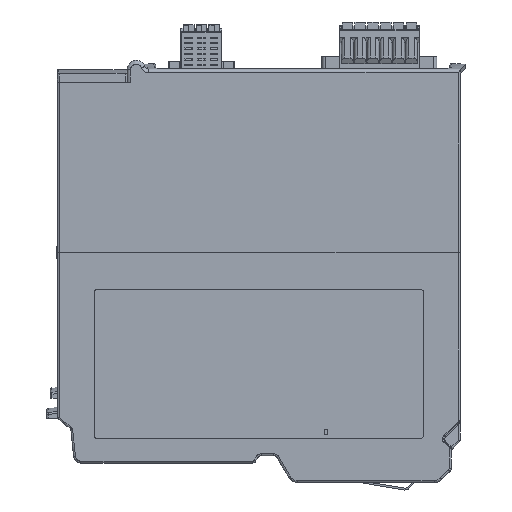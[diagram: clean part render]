
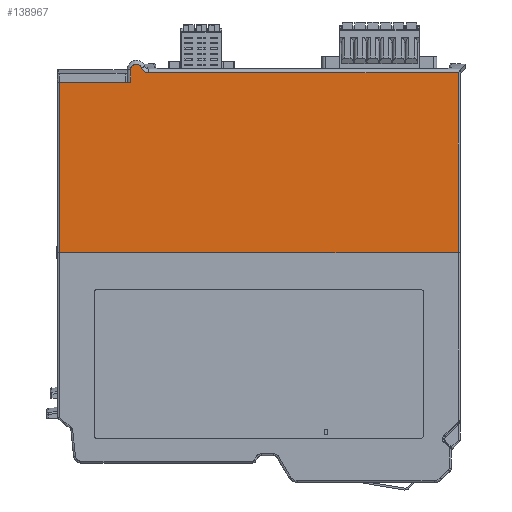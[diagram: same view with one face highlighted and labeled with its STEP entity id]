
A CAD part, left-side view. The second image highlights one B-rep face of the part: STEP entity #138967.
In plain terms, the highlighted planar face has unit normal (-1, 0, 0).
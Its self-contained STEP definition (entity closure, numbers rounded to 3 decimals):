
#2018 = CARTESIAN_POINT ( 'NONE',  ( 0., 109.5, 50. ) ) ;
#2510 = CARTESIAN_POINT ( 'NONE',  ( 0., 0., 50. ) ) ;
#3160 = EDGE_CURVE ( 'NONE', #88766, #42620, #225459, .T. ) ;
#3729 = EDGE_CURVE ( 'NONE', #219959, #165078, #216843, .T. ) ;
#4062 = CARTESIAN_POINT ( 'NONE',  ( 0., 87.09, 50.512 ) ) ;
#4608 = EDGE_CURVE ( 'NONE', #42620, #121591, #146764, .T. ) ;
#14452 = DIRECTION ( 'NONE',  ( 0., 0., 1. ) ) ;
#19972 = ORIENTED_EDGE ( 'NONE', *, *, #3160, .F. ) ;
#21811 = EDGE_LOOP ( 'NONE', ( #202314, #149817, #122659, #78458, #96824, #19972, #27666, #120981 ) ) ;
#21885 = FACE_OUTER_BOUND ( 'NONE', #21811, .T. ) ;
#23626 = EDGE_CURVE ( 'NONE', #121591, #66000, #48777, .T. ) ;
#25932 = CARTESIAN_POINT ( 'NONE',  ( 0., 91., 46.5 ) ) ;
#27666 = ORIENTED_EDGE ( 'NONE', *, *, #44324, .T. ) ;
#31450 = VECTOR ( 'NONE', #95513, 1000. ) ;
#39428 = CARTESIAN_POINT ( 'NONE',  ( 0., 86.949, 50.125 ) ) ;
#42620 = VERTEX_POINT ( 'NONE', #212745 ) ;
#44324 = EDGE_CURVE ( 'NONE', #88766, #165078, #53675, .T. ) ;
#48777 = LINE ( 'NONE', #85239, #183194 ) ;
#53675 = LINE ( 'NONE', #123141, #127272 ) ;
#55382 = CARTESIAN_POINT ( 'NONE',  ( 0., 0.5, 49.166 ) ) ;
#59595 = PLANE ( 'NONE',  #186659 ) ;
#61918 = LINE ( 'NONE', #76722, #211188 ) ;
#66000 = VERTEX_POINT ( 'NONE', #215795 ) ;
#68198 = CARTESIAN_POINT ( 'NONE',  ( 0., 87.09, 50.512 ) ) ;
#74687 = VECTOR ( 'NONE', #126877, 1000. ) ;
#74827 = CARTESIAN_POINT ( 'NONE',  ( 0., 85.19, 49.166 ) ) ;
#76722 = CARTESIAN_POINT ( 'NONE',  ( 0., 0., 49.166 ) ) ;
#78458 = ORIENTED_EDGE ( 'NONE', *, *, #23626, .F. ) ;
#78926 = CARTESIAN_POINT ( 'NONE',  ( 0., 0.5, 50. ) ) ;
#81010 = EDGE_CURVE ( 'NONE', #66000, #194474, #212095, .T. ) ;
#85239 = CARTESIAN_POINT ( 'NONE',  ( 0., 90., 50. ) ) ;
#85893 = EDGE_CURVE ( 'NONE', #194474, #144382, #220391, .T. ) ;
#88766 = VERTEX_POINT ( 'NONE', #110547 ) ;
#89331 = CARTESIAN_POINT ( 'NONE',  ( 0., 0.5, 0. ) ) ;
#90386 = EDGE_CURVE ( 'NONE', #144382, #219959, #61918, .T. ) ;
#91906 = CARTESIAN_POINT ( 'NONE',  ( 0., 86.014, 49.299 ) ) ;
#95513 = DIRECTION ( 'NONE',  ( 0., -1., 0. ) ) ;
#96824 = ORIENTED_EDGE ( 'NONE', *, *, #4608, .F. ) ;
#110547 = CARTESIAN_POINT ( 'NONE',  ( 0., 109.5, 0. ) ) ;
#120981 = ORIENTED_EDGE ( 'NONE', *, *, #3729, .F. ) ;
#121591 = VERTEX_POINT ( 'NONE', #148768 ) ;
#122659 = ORIENTED_EDGE ( 'NONE', *, *, #81010, .F. ) ;
#123141 = CARTESIAN_POINT ( 'NONE',  ( 0., 110.358, 0. ) ) ;
#123937 = CARTESIAN_POINT ( 'NONE',  ( 0., 90., 52.194 ) ) ;
#126877 = DIRECTION ( 'NONE',  ( 0., 0., -1. ) ) ;
#127272 = VECTOR ( 'NONE', #192585, 1000. ) ;
#138967 = ADVANCED_FACE ( 'NONE', ( #21885 ), #59595, .F. ) ;
#140208 = CARTESIAN_POINT ( 'NONE',  ( 0., 85.19, 49.166 ) ) ;
#141655 = DIRECTION ( 'NONE',  ( 1., 0., 0. ) ) ;
#144382 = VERTEX_POINT ( 'NONE', #140208 ) ;
#146764 = LINE ( 'NONE', #25932, #31450 ) ;
#148201 = CARTESIAN_POINT ( 'NONE',  ( 0., 87.09, 50.512 ) ) ;
#148768 = CARTESIAN_POINT ( 'NONE',  ( 0., 90., 46.5 ) ) ;
#149817 = ORIENTED_EDGE ( 'NONE', *, *, #85893, .F. ) ;
#154815 = DIRECTION ( 'NONE',  ( 0., 0., 1. ) ) ;
#161405 = CARTESIAN_POINT ( 'NONE',  ( 0., 85.605, 49.166 ) ) ;
#165078 = VERTEX_POINT ( 'NONE', #89331 ) ;
#178107 = DIRECTION ( 'NONE',  ( 0., -1., 0. ) ) ;
#178468 = CARTESIAN_POINT ( 'NONE',  ( 0., 86.689, 49.78 ) ) ;
#183194 = VECTOR ( 'NONE', #14452, 1000. ) ;
#186659 = AXIS2_PLACEMENT_3D ( 'NONE', #2510, #141655, #211179 ) ;
#192585 = DIRECTION ( 'NONE',  ( 0., -1., 0. ) ) ;
#193379 = CARTESIAN_POINT ( 'NONE',  ( 0., 87.839, 52.574 ) ) ;
#194474 = VERTEX_POINT ( 'NONE', #148201 ) ;
#202314 = ORIENTED_EDGE ( 'NONE', *, *, #90386, .F. ) ;
#209008 = VECTOR ( 'NONE', #154815, 1000. ) ;
#209391 = CARTESIAN_POINT ( 'NONE',  ( 0., 90., 50. ) ) ;
#211179 = DIRECTION ( 'NONE',  ( 0., 0., -1. ) ) ;
#211188 = VECTOR ( 'NONE', #178107, 1000. ) ;
#212095 =( BOUNDED_CURVE ( )  B_SPLINE_CURVE ( 3, ( #209391, #123937, #193379, #68198 ),
 .UNSPECIFIED., .F., .T. ) 
 B_SPLINE_CURVE_WITH_KNOTS ( ( 4, 4 ),
 ( 0., 1. ),
 .UNSPECIFIED. ) 
 CURVE ( )  GEOMETRIC_REPRESENTATION_ITEM ( )  RATIONAL_B_SPLINE_CURVE ( ( 1., 0.449, 0.449, 1. ) ) 
 REPRESENTATION_ITEM ( '' )  );
#212745 = CARTESIAN_POINT ( 'NONE',  ( 0., 109.5, 46.5 ) ) ;
#215795 = CARTESIAN_POINT ( 'NONE',  ( 0., 90., 50. ) ) ;
#216843 = LINE ( 'NONE', #78926, #74687 ) ;
#219959 = VERTEX_POINT ( 'NONE', #55382 ) ;
#220391 = B_SPLINE_CURVE_WITH_KNOTS ( 'NONE', 3,
 ( #4062, #39428, #178468, #91906, #161405, #74827 ),
 .UNSPECIFIED., .F., .F.,
 ( 4, 2, 4 ),
 ( 0., 0.5, 1. ),
 .UNSPECIFIED. ) ;
#225459 = LINE ( 'NONE', #2018, #209008 ) ;
